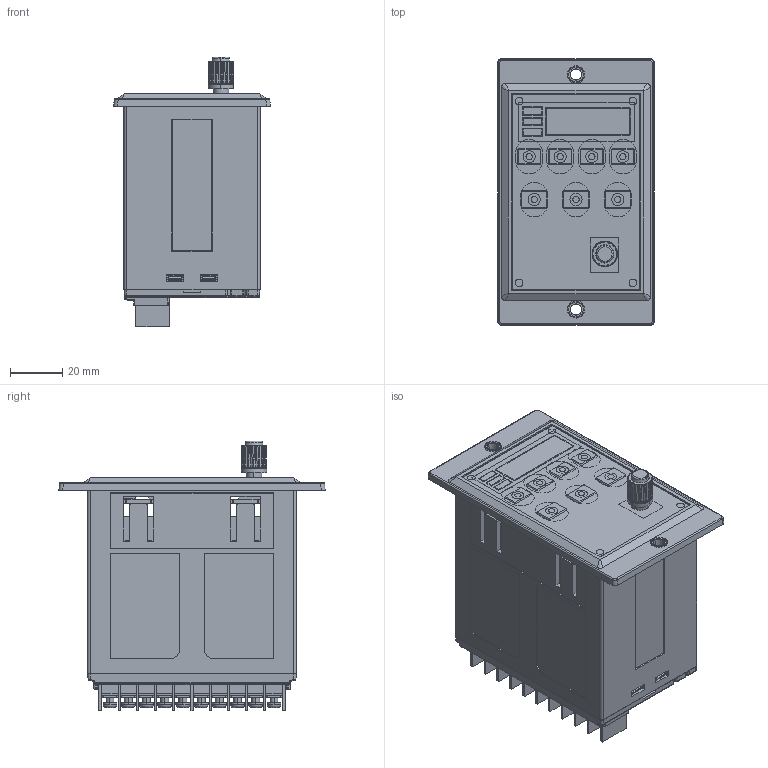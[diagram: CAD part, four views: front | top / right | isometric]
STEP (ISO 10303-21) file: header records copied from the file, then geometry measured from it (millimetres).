
FILE_DESCRIPTION (( 'STEP AP203' ), '1' );
FILE_NAME ('A20-200HD(蝠霜杅珆覃厒ん).STEP', '2020-10-28T08:23:43', ( '' ), ( '' ), 'SwSTEP 2.0', 'SolidWorks 2019', '' );
FILE_SCHEMA (( 'CONFIG_CONTROL_DESIGN' ));
Length unit declared in the file: millimetre
Products named in the file (20): 諉盄傷赽梓ワ; 覃厒ん綴裔; BM-CBB61-10uF; A20-200HD-DRV; BM-CBB61-8uF; A20-200HD-CTR; 杅珆碟; 唅聽簸; 紱釬醱啣梓ワ; A20-200HD(蝠霜杅珆覃厒ん); 杅珆裔
Assembly tree (10 placements, depth 3):
  BM-CBB61-10uF
  A20-200HD-DRV
  諉盄傷赽梓ワ
  BM-CBB61-8uF
  唅聽簸
Bounding box: 60.2 x 102.3 x 103.67 mm (x, y, z)
Volume: 194201.2 mm3; surface area: 116268.5 mm2
Topology: 13 solids, 13 shells, 2486 faces, 6744 edges, 4374 vertices
Faces by surface type: plane 1396, cylinder 500, cone 316, bspline 202, torus 42, sphere 30
Entity records: 87127 total; most frequent: CARTESIAN_POINT 25144, ORIENTED_EDGE 13404, DIRECTION 11324, EDGE_CURVE 6702, VERTEX_POINT 4374, VECTOR 3922, LINE 3922, AXIS2_PLACEMENT_3D 3701
